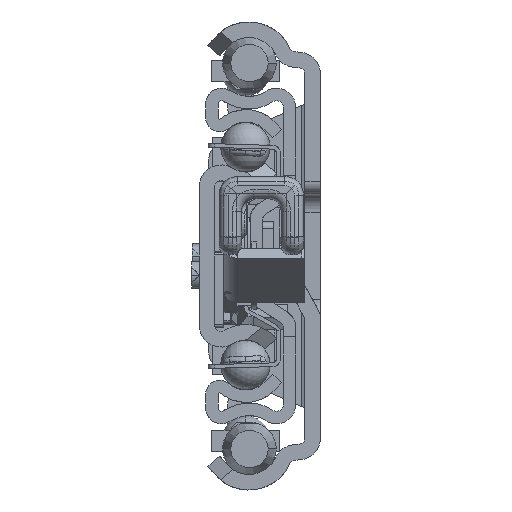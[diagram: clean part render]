
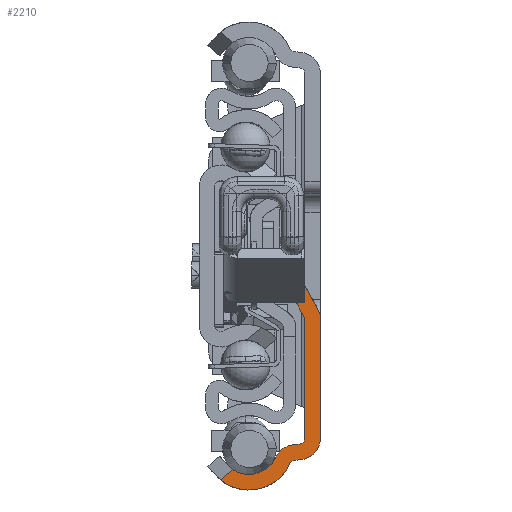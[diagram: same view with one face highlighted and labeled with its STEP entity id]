
A CAD part, left-side view. The second image highlights one B-rep face of the part: STEP entity #2210.
In plain terms, the highlighted planar face has unit normal (-1, 0, 0).
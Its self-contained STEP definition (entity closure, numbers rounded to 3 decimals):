
#45=DIRECTION('',(0.,0.769,-0.639));
#46=VECTOR('',#45,2.575);
#47=CARTESIAN_POINT('',(0.,14.098,-34.377));
#48=LINE('',#47,#46);
#49=CARTESIAN_POINT('',(0.,11.5,-30.4));
#50=DIRECTION('',(-1.,0.,0.));
#51=DIRECTION('',(0.,0.547,-0.837));
#52=AXIS2_PLACEMENT_3D('',#49,#50,#51);
#54=CARTESIAN_POINT('',(0.,4.008,-33.854));
#55=DIRECTION('',(-1.,0.,0.));
#56=DIRECTION('',(0.,0.087,0.996));
#57=AXIS2_PLACEMENT_3D('',#54,#55,#56);
#59=DIRECTION('',(0.,-0.996,0.087));
#60=VECTOR('',#59,0.904);
#61=CARTESIAN_POINT('',(0.,4.313,-30.368));
#62=LINE('',#61,#60);
#63=DIRECTION('',(0.,0.,1.));
#64=VECTOR('',#63,19.293);
#65=CARTESIAN_POINT('',(0.,2.5,-29.293));
#66=LINE('',#65,#64);
#67=DIRECTION('',(0.,-0.477,-0.879));
#68=VECTOR('',#67,6.873);
#69=CARTESIAN_POINT('',(0.,5.775,-3.958));
#70=LINE('',#69,#68);
#71=CARTESIAN_POINT('',(0.,0.5,-1.099));
#72=DIRECTION('',(-1.,0.,0.));
#73=DIRECTION('',(0.,0.946,-0.324));
#74=AXIS2_PLACEMENT_3D('',#71,#72,#73);
#76=DIRECTION('',(0.,1.,0.));
#77=VECTOR('',#76,2.78);
#78=CARTESIAN_POINT('',(0.,3.397,-3.04));
#79=LINE('',#78,#77);
#80=CARTESIAN_POINT('',(0.,2.5,-9.942));
#81=DIRECTION('',(-1.,0.,0.));
#82=DIRECTION('',(0.,-1.,0.));
#83=AXIS2_PLACEMENT_3D('',#80,#81,#82);
#85=CARTESIAN_POINT('',(0.,3.5,-29.293));
#86=DIRECTION('',(-1.,0.,0.));
#87=DIRECTION('',(0.,-0.087,-0.996));
#88=AXIS2_PLACEMENT_3D('',#85,#86,#87);
#90=DIRECTION('',(0.,0.996,-0.087));
#91=VECTOR('',#90,0.904);
#92=CARTESIAN_POINT('',(0.,3.195,-32.78));
#93=LINE('',#92,#91);
#94=CARTESIAN_POINT('',(0.,11.5,-30.4));
#95=DIRECTION('',(1.,0.,0.));
#96=DIRECTION('',(0.,-0.908,-0.419));
#97=AXIS2_PLACEMENT_3D('',#94,#95,#96);
#555=DIRECTION('',(0.,0.,1.));
#556=VECTOR('',#555,19.351);
#557=CARTESIAN_POINT('',(0.,0.,-29.293));
#558=LINE('',#557,#556);
#947=CARTESIAN_POINT('',(0.,16.079,
-36.021));
#1003=CARTESIAN_POINT('',(0.,14.098,
-34.377));
#1293=CARTESIAN_POINT('',(0.,3.5,-29.293));
#1294=DIRECTION('',(1.,0.,0.));
#1295=DIRECTION('',(0.,-1.,0.));
#1296=AXIS2_PLACEMENT_3D('',#1293,#1294,#1295);
#1303=CARTESIAN_POINT('',(0.,4.008,-33.854));
#1304=DIRECTION('',(1.,0.,0.));
#1305=DIRECTION('',(0.,0.908,0.419));
#1306=AXIS2_PLACEMENT_3D('',#1303,#1304,#1305);
#1366=DIRECTION('',(0.,0.477,0.879));
#1367=VECTOR('',#1366,6.495);
#1368=CARTESIAN_POINT('',(0.,0.302,-8.751));
#1369=LINE('',#1368,#1367);
#1373=CARTESIAN_POINT('',(0.,3.397,-3.04));
#1383=CARTESIAN_POINT('',(0.,6.177,-3.04));
#1667=CARTESIAN_POINT('',(0.,2.5,-29.293));
#1668=CARTESIAN_POINT('',(0.,3.413,
-30.289));
#1669=VERTEX_POINT('',#1667);
#1670=VERTEX_POINT('',#1668);
#1679=CARTESIAN_POINT('',(0.,4.916,-33.436));
#1680=CARTESIAN_POINT('',(0.,4.095,-32.858));
#1681=VERTEX_POINT('',#1679);
#1682=VERTEX_POINT('',#1680);
#1683=CARTESIAN_POINT('',(0.,4.313,-30.368));
#1684=CARTESIAN_POINT('',(0.,7.186,-32.389));
#1685=VERTEX_POINT('',#1683);
#1686=VERTEX_POINT('',#1684);
#1695=CARTESIAN_POINT('',(0.,3.195,-32.78));
#1696=CARTESIAN_POINT('',(0.,0.,-29.293));
#1697=VERTEX_POINT('',#1695);
#1698=VERTEX_POINT('',#1696);
#2077=VERTEX_POINT('',#947);
#2085=VERTEX_POINT('',#1003);
#2086=CARTESIAN_POINT('',(0.,2.5,-10.));
#2087=VERTEX_POINT('',#2086);
#2126=VERTEX_POINT('',#1373);
#2128=CARTESIAN_POINT('',(0.,0.,-9.942));
#2129=VERTEX_POINT('',#2128);
#2130=CARTESIAN_POINT('',(0.,0.302,-8.751));
#2131=VERTEX_POINT('',#2130);
#2136=VERTEX_POINT('',#1383);
#2137=CARTESIAN_POINT('',(0.,5.775,-3.958));
#2138=VERTEX_POINT('',#2137);
#2171=CARTESIAN_POINT('',(0.,0.,0.));
#2172=DIRECTION('',(1.,0.,0.));
#2173=DIRECTION('',(0.,-1.,0.));
#2174=AXIS2_PLACEMENT_3D('',#2171,#2172,#2173);
#2175=PLANE('',#2174);
#2177=ORIENTED_EDGE('',*,*,#2176,.F.);
#2179=ORIENTED_EDGE('',*,*,#2178,.T.);
#2181=ORIENTED_EDGE('',*,*,#2180,.F.);
#2183=ORIENTED_EDGE('',*,*,#2182,.T.);
#2185=ORIENTED_EDGE('',*,*,#2184,.F.);
#2187=ORIENTED_EDGE('',*,*,#2186,.T.);
#2189=ORIENTED_EDGE('',*,*,#2188,.F.);
#2191=ORIENTED_EDGE('',*,*,#2190,.F.);
#2193=ORIENTED_EDGE('',*,*,#2192,.F.);
#2195=ORIENTED_EDGE('',*,*,#2194,.F.);
#2197=ORIENTED_EDGE('',*,*,#2196,.F.);
#2199=ORIENTED_EDGE('',*,*,#2198,.F.);
#2201=ORIENTED_EDGE('',*,*,#2200,.F.);
#2203=ORIENTED_EDGE('',*,*,#2202,.T.);
#2205=ORIENTED_EDGE('',*,*,#2204,.F.);
#2207=ORIENTED_EDGE('',*,*,#2206,.T.);
#2208=EDGE_LOOP('',(#2177,#2179,#2181,#2183,#2185,#2187,#2189,#2191,#2193,#2195,
#2197,#2199,#2201,#2203,#2205,#2207));
#2209=FACE_OUTER_BOUND('',#2208,.F.);
#53=CIRCLE('',#52,4.75);
#58=CIRCLE('',#57,3.5);
#75=CIRCLE('',#74,6.);
#84=CIRCLE('',#83,2.5);
#89=CIRCLE('',#88,3.5);
#98=CIRCLE('',#97,7.25);
#1297=CIRCLE('',#1296,1.);
#1307=CIRCLE('',#1306,1.);
#2176=EDGE_CURVE('',#2085,#2077,#48,.T.);
#2178=EDGE_CURVE('',#2085,#1686,#53,.T.);
#2180=EDGE_CURVE('',#1685,#1686,#58,.T.);
#2182=EDGE_CURVE('',#1685,#1670,#62,.T.);
#2184=EDGE_CURVE('',#1669,#1670,#1297,.T.);
#2186=EDGE_CURVE('',#1669,#2087,#66,.T.);
#2188=EDGE_CURVE('',#2138,#2087,#70,.T.);
#2190=EDGE_CURVE('',#2136,#2138,#75,.T.);
#2192=EDGE_CURVE('',#2126,#2136,#79,.T.);
#2194=EDGE_CURVE('',#2131,#2126,#1369,.T.);
#2196=EDGE_CURVE('',#2129,#2131,#84,.T.);
#2198=EDGE_CURVE('',#1698,#2129,#558,.T.);
#2200=EDGE_CURVE('',#1697,#1698,#89,.T.);
#2202=EDGE_CURVE('',#1697,#1682,#93,.T.);
#2204=EDGE_CURVE('',#1681,#1682,#1307,.T.);
#2206=EDGE_CURVE('',#1681,#2077,#98,.T.);
#2210=ADVANCED_FACE('',(#2209),#2175,.F.);
